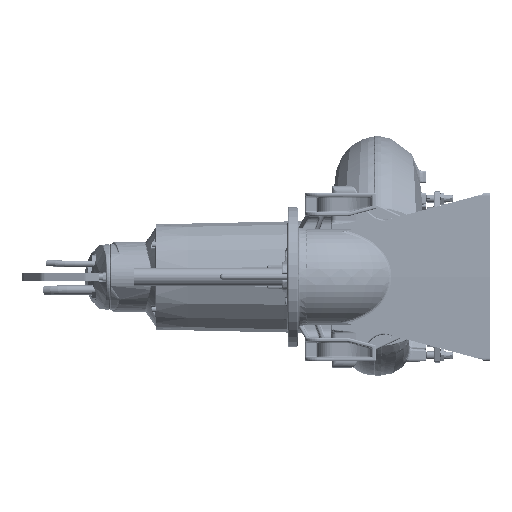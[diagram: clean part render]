
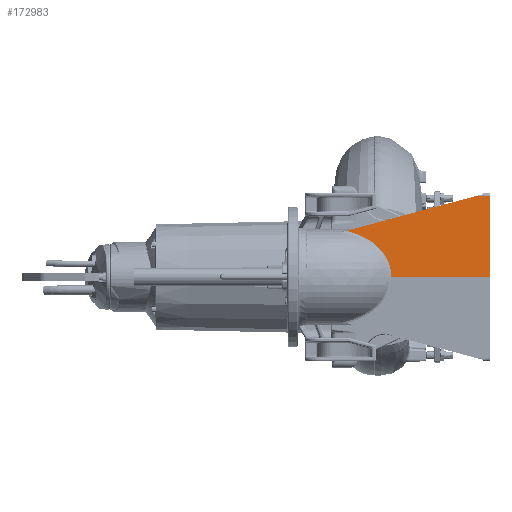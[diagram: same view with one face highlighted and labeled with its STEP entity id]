
A CAD part, left-side view. The second image highlights one B-rep face of the part: STEP entity #172983.
In plain terms, the highlighted planar face has unit normal (-1, 0, 0.018).
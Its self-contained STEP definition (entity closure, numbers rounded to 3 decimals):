
#9011 = CARTESIAN_POINT ( 'NONE',  ( -1145.062, -787.521, 0. ) ) ;
#10266 = ORIENTED_EDGE ( 'NONE', *, *, #165181, .T. ) ;
#10994 = DIRECTION ( 'NONE',  ( 0.017, 0., 1. ) ) ;
#16287 = CARTESIAN_POINT ( 'NONE',  ( -1143.739, -438.104, 75.785 ) ) ;
#21691 = DIRECTION ( 'NONE',  ( 0., 1., 0. ) ) ;
#23001 = CARTESIAN_POINT ( 'NONE',  ( -1144.497, -456.876, 32.393 ) ) ;
#41209 = CARTESIAN_POINT ( 'NONE',  ( -1144.121, -449.818, 53.887 ) ) ;
#44578 = CARTESIAN_POINT ( 'NONE',  ( -1142.792, -379.919, 130.057 ) ) ;
#45695 = CARTESIAN_POINT ( 'NONE',  ( -1143.667, -435.31, 79.926 ) ) ;
#47948 = CARTESIAN_POINT ( 'NONE',  ( -1144.886, -460.315, 10.098 ) ) ;
#49009 = LINE ( 'NONE', #99042, #248303 ) ;
#49754 = VERTEX_POINT ( 'NONE', #197254 ) ;
#55162 = LINE ( 'NONE', #96115, #99874 ) ;
#60156 = VECTOR ( 'NONE', #240339, 1000. ) ;
#61448 = ORIENTED_EDGE ( 'NONE', *, *, #277746, .T. ) ;
#63172 = ORIENTED_EDGE ( 'NONE', *, *, #325346, .T. ) ;
#76987 = AXIS2_PLACEMENT_3D ( 'NONE', #165648, #166772, #10994 ) ;
#90362 = ORIENTED_EDGE ( 'NONE', *, *, #251918, .T. ) ;
#94739 = CARTESIAN_POINT ( 'NONE',  ( -1144.202, -451.698, 49.263 ) ) ;
#95826 = B_SPLINE_CURVE_WITH_KNOTS ( 'NONE', 3,
 ( #200274, #227539, #120895, #171967, #251491, #199159, #146973, #173116, #44578, #148102, #249225, #304832, #149228, #226397, #124225, #225279, #174213, #252630, #278798, #196922, #279935, #198035, #331094, #45695, #16287, #253768, #305952, #41209, #94739, #203610, #307089, #255976, #254878, #100338, #23001, #99193, #308251, #47948, #228613, #153731 ),
 .UNSPECIFIED., .F., .F.,
 ( 4, 2, 2, 2, 2, 2, 2, 2, 2, 2, 2, 2, 2, 2, 2, 2, 2, 2, 2, 4 ),
 ( 0., 0.03, 0.06, 0.074, 0.082, 0.086, 0.089, 0.119, 0.134, 0.141, 0.145, 0.149, 0.164, 0.179, 0.193, 0.197, 0.201, 0.208, 0.223, 0.238 ),
 .UNSPECIFIED. ) ;
#96115 = CARTESIAN_POINT ( 'NONE',  ( -1141.321, -511.746, 214.322 ) ) ;
#99042 = CARTESIAN_POINT ( 'NONE',  ( -1140.172, -775.521, 280.175 ) ) ;
#99193 = CARTESIAN_POINT ( 'NONE',  ( -1144.625, -458.499, 25.026 ) ) ;
#99874 = VECTOR ( 'NONE', #129114, 1000. ) ;
#100338 = CARTESIAN_POINT ( 'NONE',  ( -1144.454, -456.264, 34.839 ) ) ;
#102145 = FACE_OUTER_BOUND ( 'NONE', #233754, .T. ) ;
#108043 = DIRECTION ( 'NONE',  ( 0., -1., 0. ) ) ;
#108390 = VERTEX_POINT ( 'NONE', #141610 ) ;
#110034 = PLANE ( 'NONE',  #76987 ) ;
#115264 = CARTESIAN_POINT ( 'NONE',  ( -1140.172, -800.521, 280.175 ) ) ;
#120895 = CARTESIAN_POINT ( 'NONE',  ( -1142.373, -325.415, 154.029 ) ) ;
#124225 = CARTESIAN_POINT ( 'NONE',  ( -1143.09, -404.755, 112.996 ) ) ;
#129114 = DIRECTION ( 'NONE',  ( -0.005, 0.966, -0.259 ) ) ;
#140048 = LINE ( 'NONE', #9011, #229256 ) ;
#141610 = CARTESIAN_POINT ( 'NONE',  ( -1142.283, -306.076, 159.213 ) ) ;
#146973 = CARTESIAN_POINT ( 'NONE',  ( -1142.705, -371.232, 135.004 ) ) ;
#148102 = CARTESIAN_POINT ( 'NONE',  ( -1142.826, -383.132, 128.095 ) ) ;
#149228 = CARTESIAN_POINT ( 'NONE',  ( -1142.873, -387.381, 125.393 ) ) ;
#153731 = CARTESIAN_POINT ( 'NONE',  ( -1145.062, -460.466, 0. ) ) ;
#161977 = CARTESIAN_POINT ( 'NONE',  ( -1145.062, -800.521, 0. ) ) ;
#165181 = EDGE_CURVE ( 'NONE', #108390, #165851, #95826, .T. ) ;
#165648 = CARTESIAN_POINT ( 'NONE',  ( -1140., -787.521, 290. ) ) ;
#165851 = VERTEX_POINT ( 'NONE', #263548 ) ;
#165869 = LINE ( 'NONE', #230211, #60156 ) ;
#166772 = DIRECTION ( 'NONE',  ( -1., 0., 0.017 ) ) ;
#171967 = CARTESIAN_POINT ( 'NONE',  ( -1142.487, -344.193, 147.499 ) ) ;
#172983 = ADVANCED_FACE ( 'NONE', ( #102145 ), #110034, .T. ) ;
#173116 = CARTESIAN_POINT ( 'NONE',  ( -1142.77, -377.759, 131.323 ) ) ;
#174213 = CARTESIAN_POINT ( 'NONE',  ( -1143.329, -419.296, 99.309 ) ) ;
#196922 = CARTESIAN_POINT ( 'NONE',  ( -1143.51, -428.419, 88.925 ) ) ;
#197254 = CARTESIAN_POINT ( 'NONE',  ( -1140.172, -757.512, 280.175 ) ) ;
#198035 = CARTESIAN_POINT ( 'NONE',  ( -1143.562, -430.775, 85.956 ) ) ;
#199159 = CARTESIAN_POINT ( 'NONE',  ( -1142.665, -366.815, 137.3 ) ) ;
#200274 = CARTESIAN_POINT ( 'NONE',  ( -1142.283, -306.076, 159.213 ) ) ;
#203610 = CARTESIAN_POINT ( 'NONE',  ( -1144.306, -453.735, 43.318 ) ) ;
#225279 = CARTESIAN_POINT ( 'NONE',  ( -1143.267, -415.767, 102.85 ) ) ;
#226397 = CARTESIAN_POINT ( 'NONE',  ( -1142.983, -396.846, 119.128 ) ) ;
#227539 = CARTESIAN_POINT ( 'NONE',  ( -1142.325, -315.829, 156.819 ) ) ;
#228613 = CARTESIAN_POINT ( 'NONE',  ( -1144.973, -460.539, 5.069 ) ) ;
#229256 = VECTOR ( 'NONE', #108043, 1000. ) ;
#230211 = CARTESIAN_POINT ( 'NONE',  ( -1145.062, -800.521, 0. ) ) ;
#233754 = EDGE_LOOP ( 'NONE', ( #61448, #334889, #63172, #10266, #90362 ) ) ;
#240339 = DIRECTION ( 'NONE',  ( 0.017, 0., 1. ) ) ;
#245696 = VERTEX_POINT ( 'NONE', #161977 ) ;
#248303 = VECTOR ( 'NONE', #21691, 1000. ) ;
#249225 = CARTESIAN_POINT ( 'NONE',  ( -1142.838, -384.198, 127.43 ) ) ;
#251491 = CARTESIAN_POINT ( 'NONE',  ( -1142.553, -353.384, 143.76 ) ) ;
#251918 = EDGE_CURVE ( 'NONE', #165851, #245696, #140048, .T. ) ;
#252630 = CARTESIAN_POINT ( 'NONE',  ( -1143.426, -424.358, 93.741 ) ) ;
#253768 = CARTESIAN_POINT ( 'NONE',  ( -1143.888, -443.245, 67.267 ) ) ;
#254878 = CARTESIAN_POINT ( 'NONE',  ( -1144.39, -455.238, 38.493 ) ) ;
#255976 = CARTESIAN_POINT ( 'NONE',  ( -1144.369, -454.878, 39.709 ) ) ;
#263548 = CARTESIAN_POINT ( 'NONE',  ( -1145.062, -460.466, 0. ) ) ;
#277746 = EDGE_CURVE ( 'NONE', #245696, #295760, #165869, .T. ) ;
#278798 = CARTESIAN_POINT ( 'NONE',  ( -1143.459, -426.006, 91.842 ) ) ;
#279935 = CARTESIAN_POINT ( 'NONE',  ( -1143.527, -429.214, 87.94 ) ) ;
#295760 = VERTEX_POINT ( 'NONE', #115264 ) ;
#304832 = CARTESIAN_POINT ( 'NONE',  ( -1142.861, -386.323, 126.08 ) ) ;
#305952 = CARTESIAN_POINT ( 'NONE',  ( -1143.964, -445.592, 62.889 ) ) ;
#307089 = CARTESIAN_POINT ( 'NONE',  ( -1144.327, -454.127, 42.12 ) ) ;
#308251 = CARTESIAN_POINT ( 'NONE',  ( -1144.712, -459.295, 20.076 ) ) ;
#325346 = EDGE_CURVE ( 'NONE', #49754, #108390, #55162, .T. ) ;
#327487 = EDGE_CURVE ( 'NONE', #295760, #49754, #49009, .T. ) ;
#331094 = CARTESIAN_POINT ( 'NONE',  ( -1143.579, -431.543, 84.957 ) ) ;
#334889 = ORIENTED_EDGE ( 'NONE', *, *, #327487, .T. ) ;
